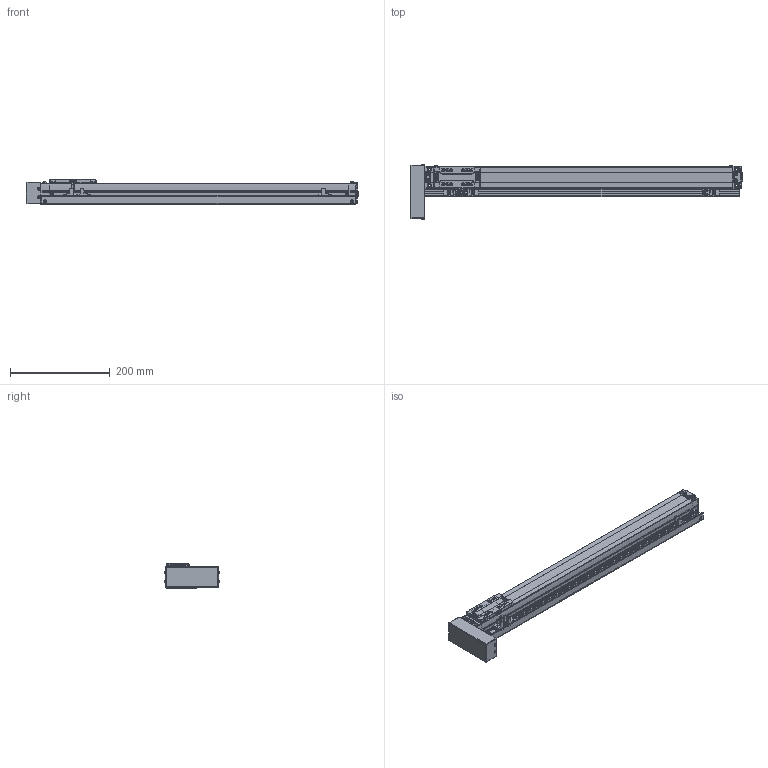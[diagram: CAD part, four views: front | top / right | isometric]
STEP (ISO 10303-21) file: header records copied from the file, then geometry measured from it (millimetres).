
FILE_DESCRIPTION(('STEP AP214'),'1');
FILE_NAME('Z:/Web/3D/SAN45/2013.ver/STP/SAN45ㅁㅁ-500PR+3SR.stp','2013-05-15T12:04:01',(' '),(' '),'Spatial InterOp 3D',' ',' ');
FILE_SCHEMA(('automotive_design'));
Length unit declared in the file: millimetre
Products named in the file (46): BODY-SAN45; REAR-SAN45; RRCV-SAN45; BHCS M3 x 6L; BHCS M3 X 6L; FRONT-SAN45; SHAFT; RN8 x 0.75; SSFX-SAN45; SLIDE-SAN45; SLCV-IM45; FHCS M3 x 6L; BTCV-SAN45; SRL-16x17-380L; EE-SX674; SBK-SX674-352; SDG-SA45; SCREW M3 x 5L
Bounding box: 666.15 x 110.13 x 50 mm (x, y, z)
Volume: 1356827.5 mm3; surface area: 268552.1 mm2
Topology: 46 solids, 46 shells, 2356 faces, 6085 edges, 3898 vertices
Faces by surface type: plane 1288, cylinder 742, cone 160, sphere 84, bspline 44, torus 32, extrusion 6
Entity records: 95272 total; most frequent: CARTESIAN_POINT 16948, DIRECTION 12657, ORIENTED_EDGE 12002, EDGE_CURVE 6001, AXIS2_PLACEMENT_3D 4426, VERTEX_POINT 3898, VECTOR 3805, LINE 3799
